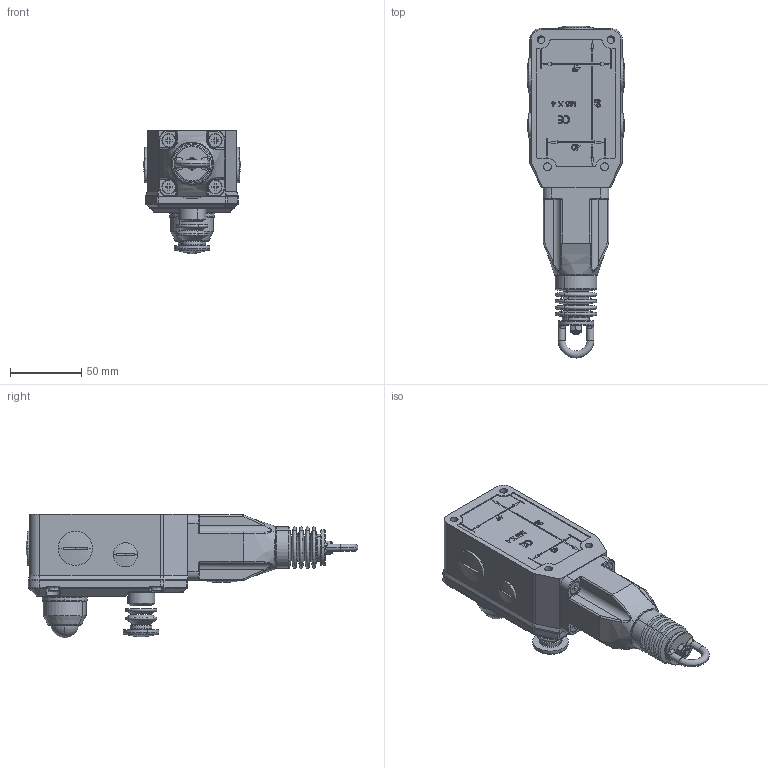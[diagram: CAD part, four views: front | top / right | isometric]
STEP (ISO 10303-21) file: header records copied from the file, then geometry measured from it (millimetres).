
FILE_DESCRIPTION (( 'STEP AP203' ), '1' );
FILE_NAME ('144-GLS-SS (with LED) (step format).STEP', '2013-01-09T16:04:19', ( '' ), ( '' ), 'SwSTEP 2.0', 'SolidWorks 2010', '' );
FILE_SCHEMA (( 'CONFIG_CONTROL_DESIGN' ));
Length unit declared in the file: millimetre
Products named in the file (1): 144-GLS-SS (with LED) (step format)
Bounding box: 68.28 x 232.58 x 86.7 mm (x, y, z)
Surface area: 58580 mm2 (no closed solid volume)
Topology: 0 solids, 50 shells, 720 faces, 2277 edges, 1535 vertices
Faces by surface type: cylinder 250, plane 202, torus 102, bspline 79, cone 65, sphere 22
Entity records: 30059 total; most frequent: CARTESIAN_POINT 11008, DIRECTION 3885, ORIENTED_EDGE 3655, EDGE_CURVE 2251, VERTEX_POINT 1533, AXIS2_PLACEMENT_3D 1446, VECTOR 993, LINE 993
